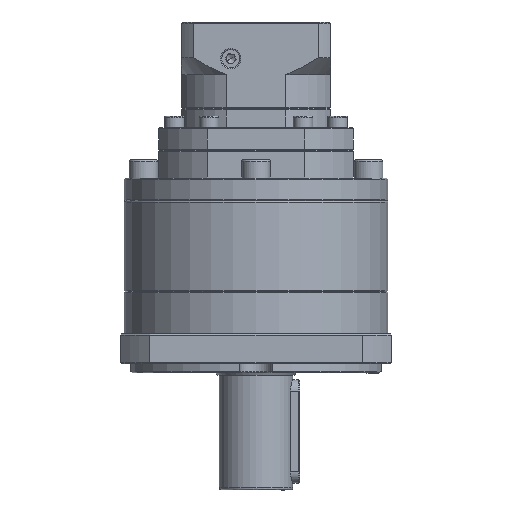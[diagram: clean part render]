
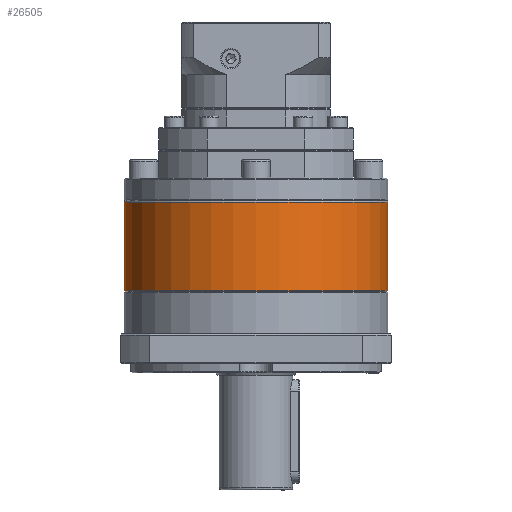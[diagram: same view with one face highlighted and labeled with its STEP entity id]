
A CAD part, front view. The second image highlights one B-rep face of the part: STEP entity #26505.
In plain terms, the highlighted cylindrical face has radius 57.5 mm (diameter 115 mm), a partial arc.
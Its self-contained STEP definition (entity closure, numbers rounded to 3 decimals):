
#484 = LINE ( 'NONE', #33185, #106551 ) ;
#2723 = ORIENTED_EDGE ( 'NONE', *, *, #132943, .T. ) ;
#9343 = ORIENTED_EDGE ( 'NONE', *, *, #110059, .F. ) ;
#11861 = AXIS2_PLACEMENT_3D ( 'NONE', #133011, #102864, #91699 ) ;
#16692 = DIRECTION ( 'NONE',  ( -1., 0., 0. ) ) ;
#17085 = VERTEX_POINT ( 'NONE', #113031 ) ;
#19791 = ORIENTED_EDGE ( 'NONE', *, *, #98346, .T. ) ;
#21568 = AXIS2_PLACEMENT_3D ( 'NONE', #48613, #79563, #16692 ) ;
#26505 = ADVANCED_FACE ( 'NONE', ( #68647 ), #66982, .T. ) ;
#28271 = DIRECTION ( 'NONE',  ( -1., 0., 0. ) ) ;
#33185 = CARTESIAN_POINT ( 'NONE',  ( 130.309, 84.948, -103.371 ) ) ;
#39393 = ORIENTED_EDGE ( 'NONE', *, *, #60980, .T. ) ;
#40913 = VERTEX_POINT ( 'NONE', #67274 ) ;
#44717 = VERTEX_POINT ( 'NONE', #89403 ) ;
#45595 = AXIS2_PLACEMENT_3D ( 'NONE', #88049, #88935, #28271 ) ;
#48613 = CARTESIAN_POINT ( 'NONE',  ( 72.809, 84.948, -103.871 ) ) ;
#57746 = CIRCLE ( 'NONE', #21568, 57.5 ) ;
#60980 = EDGE_CURVE ( 'NONE', #40913, #44717, #57746, .T. ) ;
#64483 = CARTESIAN_POINT ( 'NONE',  ( 130.309, 84.948, -142.583 ) ) ;
#66982 = CYLINDRICAL_SURFACE ( 'NONE', #11861, 57.5 ) ;
#67274 = CARTESIAN_POINT ( 'NONE',  ( 130.309, 84.948, -103.871 ) ) ;
#68647 = FACE_OUTER_BOUND ( 'NONE', #119165, .T. ) ;
#72731 = DIRECTION ( 'NONE',  ( 0., 0., -1. ) ) ;
#74078 = LINE ( 'NONE', #118202, #75756 ) ;
#75640 = VERTEX_POINT ( 'NONE', #64483 ) ;
#75756 = VECTOR ( 'NONE', #119995, 1000. ) ;
#79563 = DIRECTION ( 'NONE',  ( 0., 0., -1. ) ) ;
#88049 = CARTESIAN_POINT ( 'NONE',  ( 72.809, 84.948, -142.583 ) ) ;
#88935 = DIRECTION ( 'NONE',  ( 0., 0., 1. ) ) ;
#89403 = CARTESIAN_POINT ( 'NONE',  ( 15.309, 84.948, -103.871 ) ) ;
#91699 = DIRECTION ( 'NONE',  ( -1., 0., 0. ) ) ;
#98346 = EDGE_CURVE ( 'NONE', #17085, #75640, #124739, .T. ) ;
#102864 = DIRECTION ( 'NONE',  ( 0., 0., -1. ) ) ;
#106551 = VECTOR ( 'NONE', #72731, 1000. ) ;
#110059 = EDGE_CURVE ( 'NONE', #40913, #75640, #484, .T. ) ;
#113031 = CARTESIAN_POINT ( 'NONE',  ( 15.309, 84.948, -142.583 ) ) ;
#118202 = CARTESIAN_POINT ( 'NONE',  ( 15.309, 84.948, -103.371 ) ) ;
#119165 = EDGE_LOOP ( 'NONE', ( #9343, #39393, #2723, #19791 ) ) ;
#119995 = DIRECTION ( 'NONE',  ( 0., 0., -1. ) ) ;
#124739 = CIRCLE ( 'NONE', #45595, 57.5 ) ;
#132943 = EDGE_CURVE ( 'NONE', #44717, #17085, #74078, .T. ) ;
#133011 = CARTESIAN_POINT ( 'NONE',  ( 72.809, 84.948, -103.371 ) ) ;
